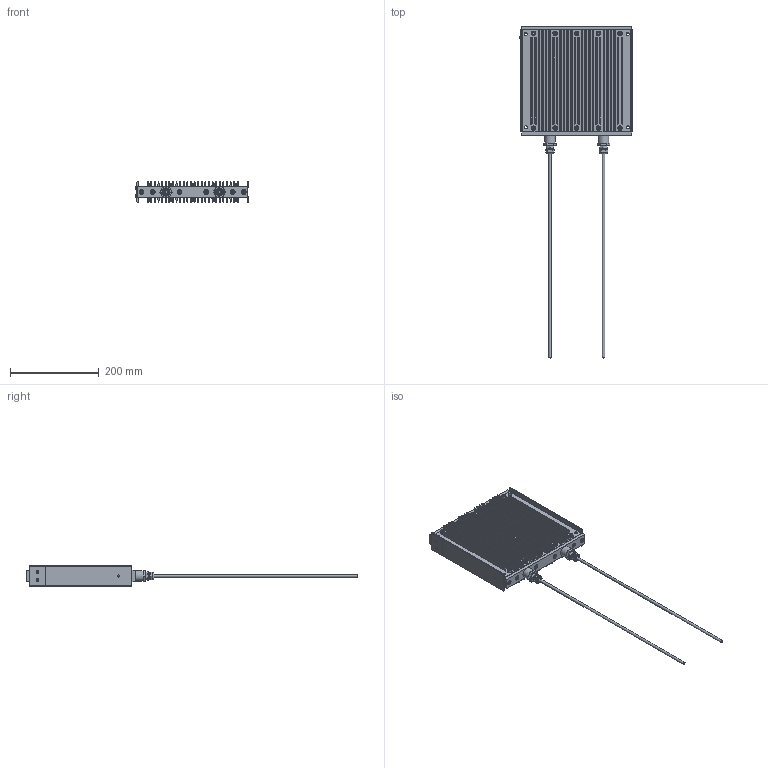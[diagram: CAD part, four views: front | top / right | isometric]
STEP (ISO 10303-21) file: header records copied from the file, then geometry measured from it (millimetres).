
FILE_DESCRIPTION(/* description */ (''),/* implementation_level */ '2;1');
FILE_NAME(/* name */ 'C:\_Vault\Dati\CATALOGO\RFH\RFH 2PG\RFH 1000 2PG.stp',/* time_stamp */ '2014-03-25T19:11:20+01:00',/* author */ ('stefano'),/* organization */ (''),/* preprocessor_version */ 'ST-DEVELOPER v15.2',/* originating_system */ 'Autodesk Inventor 2014',/* authorisation */ '');
FILE_SCHEMA (('AUTOMOTIVE_DESIGN { 1 0 10303 214 3 1 1 }'));
Length unit declared in the file: millimetre
Products named in the file (2): RFH 1000 2PG 3D; RFH 1000 2PG
Bounding box: 254.37 x 746.2 x 45 mm (x, y, z)
Volume: 1213146.5 mm3; surface area: 558920.7 mm2
Topology: 3 solids, 11 shells, 1539 faces, 3801 edges, 2479 vertices
Faces by surface type: plane 731, cylinder 491, cone 251, torus 60, sphere 6
Full cylindrical faces by diameter (mm): 2.5 x2, 2.9 x2, 3 x2, 4.134 x8, 4.567 x4, 4.917 x1, 5 x36, 5.3 x32, 5.5 x30, 5.6 x12, 6 x2, 7 x4, 8.5 x10, 9 x2, 10 x36, 10.5 x12, 12 x2, 13 x4, 13.376 x2, 15 x2, 17 x4, 24 x2
Entity records: 46306 total; most frequent: CARTESIAN_POINT 10686, DIRECTION 7060, ORIENTED_EDGE 6736, EDGE_CURVE 3368, AXIS2_PLACEMENT_3D 2846, VERTEX_POINT 2356, EDGE_LOOP 2122, STYLED_ITEM 1542
